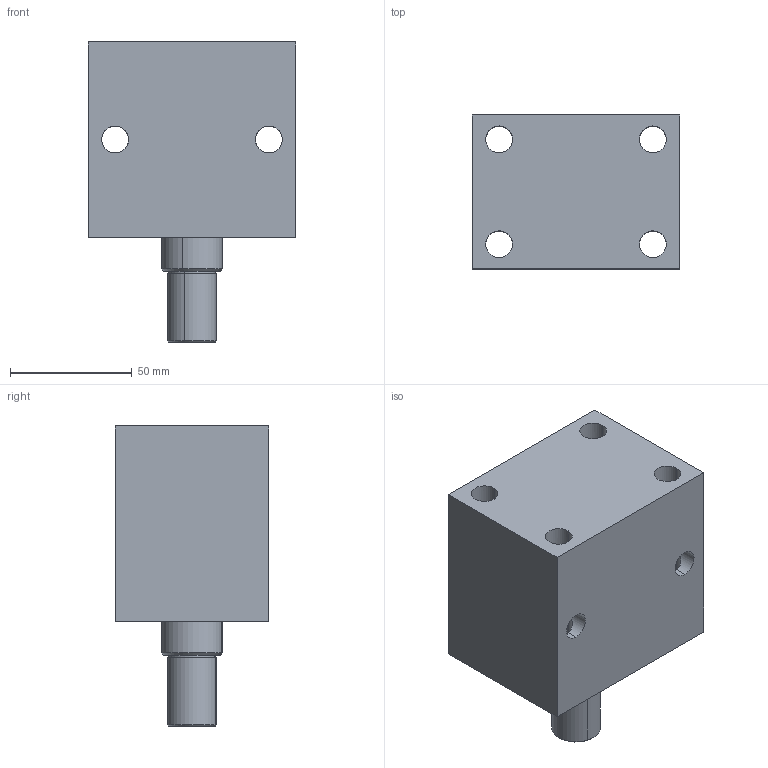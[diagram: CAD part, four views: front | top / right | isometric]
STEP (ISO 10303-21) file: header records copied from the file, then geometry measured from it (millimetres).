
FILE_DESCRIPTION (( 'STEP AP203' ), '1' );
FILE_NAME ('Block cylinder_B01C-325M.STEP', '2022-07-09T18:10:53', ( '' ), ( '' ), 'SwSTEP 2.0', 'SolidWorks 2017', '' );
FILE_SCHEMA (( 'CONFIG_CONTROL_DESIGN' ));
Length unit declared in the file: millimetre
Products named in the file (3): Body_325M_50ST; Piston_325M_50sT; Block cylinder_B01C-325M
Assembly tree (2 placements, depth 2):
  Block cylinder_B01C-325M
    Body_325M_50ST
    Piston_325M_50sT
Bounding box: 85 x 63 x 123 mm (x, y, z)
Volume: 410288.6 mm3; surface area: 59733 mm2
Topology: 2 solids, 2 shells, 357 faces, 976 edges, 638 vertices
Faces by surface type: bspline 159, plane 144, cylinder 46, cone 8
Entity records: 17977 total; most frequent: CARTESIAN_POINT 9763, ORIENTED_EDGE 1944, DIRECTION 1092, EDGE_CURVE 972, VERTEX_POINT 638, LINE 558, VECTOR 558, EDGE_LOOP 396
